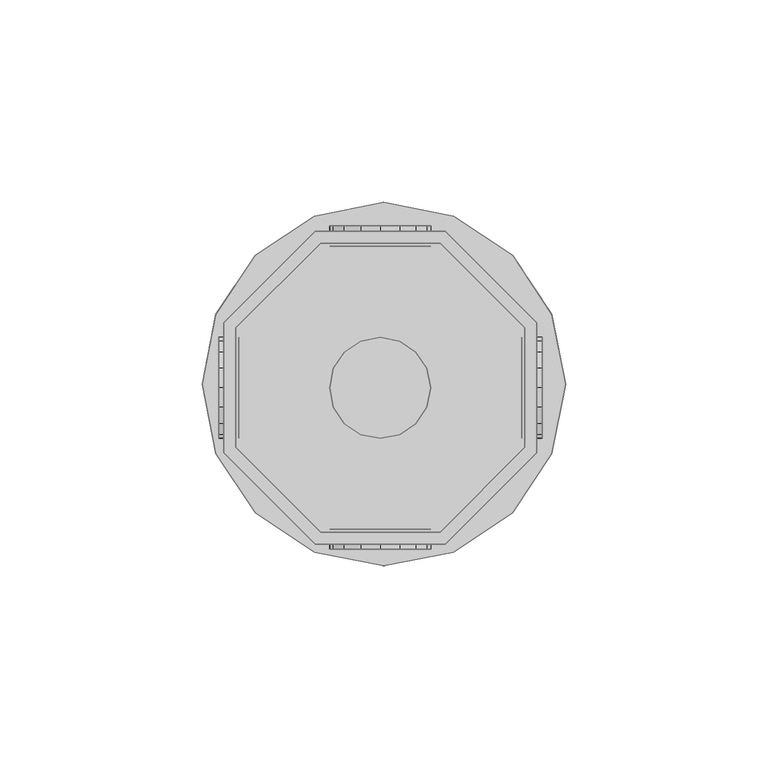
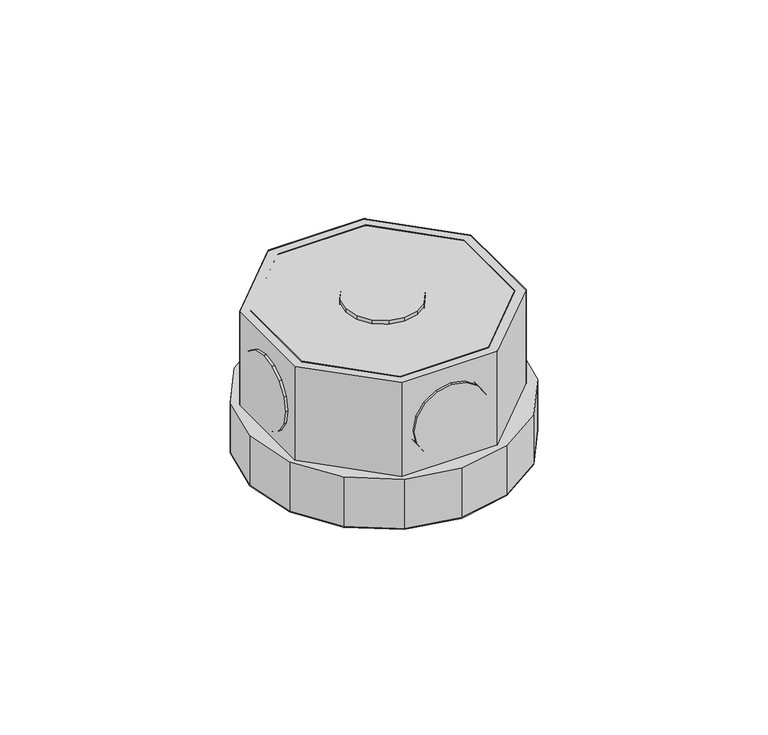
"""IFC4 building model written with IfcOpenShell, lengths in millimetres: light fixture geometry,  213018 :  213018."""

from ifc_helpers import new_model, si_unit, origin, place, context, project, spatial, triangles, source, transform, mapped, element, save


def light_fixture_5b6dd94d(model_context):
    return source(origin(), model_context, "Body", "Tessellation", [
        triangles([(4214.1000435, 12044.5996948, 2924.5999741), (4214.1000435, 12015.0003387, 2975.400071), (4214.1000435, 12015.0003387, 2924.5999741), (4214.1000435, 12044.5996948, 2975.400071), (4288.5998566, 12045.7996216, 2924.5999741), (4288.5998566, 12013.7004181, 2975.400071), (4288.5998566, 12013.7004181, 2924.5999741), (4288.5998566, 12045.7996216, 2975.400071), (4235.0999245, 11994.0004578, 2975.400071), (4235.0999245, 11994.0004578, 2924.5999741), (4265.9000793, 12068.5005615, 2924.5999741), (4265.9000793, 12068.5005615, 2975.400071), (4264.6998619, 11994.0004578, 2975.400071), (4264.6998619, 11994.0004578, 2924.5999741), (4233.8000038, 12068.5005615, 2924.5999741), (4233.8000038, 12068.5005615, 2975.400071), (4285.6000397, 12015.0003387, 2975.400071), (4285.6000397, 12015.0003387, 2924.5999741), (4211.0999359, 12045.7996216, 2924.5999741), (4211.0999359, 12045.7996216, 2975.400071), (4285.6000397, 12044.5996948, 2924.5999741), (4285.6000397, 12044.5996948, 2975.400071), (4211.0999359, 12013.7004181, 2975.400071), (4211.0999359, 12013.7004181, 2924.5999741), (4264.6998619, 12065.4995819, 2924.5999741), (4264.6998619, 12065.4995819, 2975.400071), (4233.8000038, 11990.9994781, 2975.400071), (4233.8000038, 11990.9994781, 2924.5999741), (4265.9000793, 11990.9994781, 2975.400071), (4235.0999245, 12065.4995819, 2975.400071), (4235.0999245, 12065.4995819, 2924.5999741), (4265.9000793, 11990.9994781, 2924.5999741), (4264.6998619, 11994.0004578, 2972.3999634), (4285.6000397, 12015.0003387, 2972.3999634), (4285.6000397, 12044.5996948, 2972.3999634), (4264.6998619, 12065.4995819, 2972.3999634), (4235.0999245, 12065.4995819, 2972.3999634), (4214.1000435, 12044.5996948, 2972.3999634), (4214.1000435, 12015.0003387, 2972.3999634), (4235.0999245, 11994.0004578, 2972.3999634), (4233.8000038, 11990.9994781, 2942.4000504), (4211.0999359, 12013.7004181, 2942.4000504), (4211.0999359, 12045.7996216, 2942.4000504), (4233.8000038, 12068.5005615, 2942.4000504), (4265.9000793, 12068.5005615, 2942.4000504), (4288.5998566, 12045.7996216, 2942.4000504), (4288.5998566, 12013.7004181, 2942.4000504), (4265.9000793, 11990.9994781, 2942.4000504), (4292.2999214, 12013.4004364, 2942.4000504), (4267.9999512, 11989.0995941, 2942.4000504), (4282.5999321, 11998.8001648, 2942.4000504), (4250.8001289, 11985.6998016, 2942.4000504), (4233.5000221, 11989.0995941, 2942.4000504), (4218.9000412, 11998.8001648, 2942.4000504), (4209.2000519, 12013.4004364, 2942.4000504), (4205.7999687, 12030.7005432, 2942.4000504), (4209.2000519, 12047.8994934, 2942.4000504), (4233.5000221, 12072.2003357, 2942.4000504), (4218.9000412, 12062.499765, 2942.4000504), (4295.7999985, 12030.7005432, 2942.4000504), (4292.2999214, 12047.8994934, 2942.4000504), (4282.5999321, 12062.499765, 2942.4000504), (4267.9999512, 12072.2003357, 2942.4000504), (4250.8001289, 12075.7001221, 2942.4000504), (4267.9999512, 11989.0995941, 2924.5999741), (4292.2999214, 12013.4004364, 2924.5999741), (4282.5999321, 11998.8001648, 2924.5999741), (4250.8001289, 11985.6998016, 2924.5999741), (4233.5000221, 11989.0995941, 2924.5999741), (4218.9000412, 11998.8001648, 2924.5999741), (4209.2000519, 12013.4004364, 2924.5999741), (4205.7999687, 12030.7005432, 2924.5999741), (4209.2000519, 12047.8994934, 2924.5999741), (4233.5000221, 12072.2003357, 2924.5999741), (4218.9000412, 12062.499765, 2924.5999741), (4295.7999985, 12030.7005432, 2924.5999741), (4292.2999214, 12047.8994934, 2924.5999741), (4282.5999321, 12062.499765, 2924.5999741), (4267.9999512, 12072.2003357, 2924.5999741), (4250.8001289, 12075.7001221, 2924.5999741), (4209.9000092, 12018.2001434, 2952.6000092), (4209.9000092, 12024.9997284, 2945.9001274), (4209.9000092, 12020.8999786, 2948.5999626), (4209.9000092, 12017.3001984, 2957.4000069), (4209.9000092, 12029.7994354, 2944.8998978), (4209.9000092, 12018.2001434, 2962.2000046), (4209.9000092, 12034.6003052, 2945.9001274), (4209.9000092, 12020.8999786, 2966.2000511), (4209.9000092, 12038.600061, 2948.5999626), (4209.9000092, 12024.9997284, 2968.8998863), (4209.9000092, 12041.2998962, 2952.6000092), (4209.9000092, 12029.7994354, 2969.900116), (4209.9000092, 12042.2998352, 2957.4000069), (4209.9000092, 12034.6003052, 2968.8998863), (4209.9000092, 12041.2998962, 2962.2000046), (4209.9000092, 12038.600061, 2966.2000511), (4214.8999947, 12024.9997284, 2945.9001274), (4214.8999947, 12018.2001434, 2952.6000092), (4214.8999947, 12020.8999786, 2948.5999626), (4214.8999947, 12029.7994354, 2944.8998978), (4214.8999947, 12017.3001984, 2957.4000069), (4214.8999947, 12034.6003052, 2945.9001274), (4214.8999947, 12018.2001434, 2962.2000046), (4214.8999947, 12038.600061, 2948.5999626), (4214.8999947, 12020.8999786, 2966.2000511), (4214.8999947, 12024.9997284, 2968.8998863), (4214.8999947, 12041.2998962, 2952.6000092), (4214.8999947, 12029.7994354, 2969.900116), (4214.8999947, 12042.2998352, 2957.4000069), (4214.8999947, 12034.6003052, 2968.8998863), (4214.8999947, 12041.2998962, 2962.2000046), (4214.8999947, 12038.600061, 2966.2000511), (4284.9000824, 12018.2001434, 2952.6000092), (4284.9000824, 12024.9997284, 2945.9001274), (4284.9000824, 12020.8999786, 2948.5999626), (4284.9000824, 12017.3001984, 2957.4000069), (4284.9000824, 12029.7994354, 2944.8998978), (4284.9000824, 12018.2001434, 2962.2000046), (4284.9000824, 12034.6003052, 2945.9001274), (4284.9000824, 12020.8999786, 2966.2000511), (4284.9000824, 12038.600061, 2948.5999626), (4284.9000824, 12024.9997284, 2968.8998863), (4284.9000824, 12041.2998962, 2952.6000092), (4284.9000824, 12029.7994354, 2969.900116), (4284.9000824, 12042.2998352, 2957.4000069), (4284.9000824, 12034.6003052, 2968.8998863), (4284.9000824, 12041.2998962, 2962.2000046), (4284.9000824, 12038.600061, 2966.2000511), (4289.9000679, 12024.9997284, 2945.9001274), (4289.9000679, 12018.2001434, 2952.6000092), (4289.9000679, 12020.8999786, 2948.5999626), (4289.9000679, 12029.7994354, 2944.8998978), (4289.9000679, 12017.3001984, 2957.4000069), (4289.9000679, 12034.6003052, 2945.9001274), (4289.9000679, 12018.2001434, 2962.2000046), (4289.9000679, 12038.600061, 2948.5999626), (4289.9000679, 12020.8999786, 2966.2000511), (4289.9000679, 12024.9997284, 2968.8998863), (4289.9000679, 12041.2998962, 2952.6000092), (4289.9000679, 12029.7994354, 2969.900116), (4289.9000679, 12042.2998352, 2957.4000069), (4289.9000679, 12034.6003052, 2968.8998863), (4289.9000679, 12041.2998962, 2962.2000046), (4289.9000679, 12038.600061, 2966.2000511), (4254.6998909, 11994.8004089, 2945.9001274), (4261.4000633, 11994.8004089, 2952.6000092), (4258.6999374, 11994.8004089, 2948.5999626), (4249.8998932, 11994.8004089, 2944.8998978), (4262.4000023, 11994.8004089, 2957.4000069), (4245.0998955, 11994.8004089, 2945.9001274), (4261.4000633, 11994.8004089, 2962.2000046), (4240.999855, 11994.8004089, 2948.5999626), (4258.6999374, 11994.8004089, 2966.2000511), (4254.6998909, 11994.8004089, 2968.8998863), (4238.3000198, 11994.8004089, 2952.6000092), (4249.8998932, 11994.8004089, 2969.900116), (4237.4000748, 11994.8004089, 2957.4000069), (4245.0998955, 11994.8004089, 2968.8998863), (4238.3000198, 11994.8004089, 2962.2000046), (4240.999855, 11994.8004089, 2966.2000511), (4261.4000633, 11989.7995514, 2952.6000092), (4254.6998909, 11989.7995514, 2945.9001274), (4258.6999374, 11989.7995514, 2948.5999626), (4262.4000023, 11989.7995514, 2957.4000069), (4249.8998932, 11989.7995514, 2944.8998978), (4261.4000633, 11989.7995514, 2962.2000046), (4245.0998955, 11989.7995514, 2945.9001274), (4258.6999374, 11989.7995514, 2966.2000511), (4240.999855, 11989.7995514, 2948.5999626), (4254.6998909, 11989.7995514, 2968.8998863), (4238.3000198, 11989.7995514, 2952.6000092), (4249.8998932, 11989.7995514, 2969.900116), (4237.4000748, 11989.7995514, 2957.4000069), (4245.0998955, 11989.7995514, 2968.8998863), (4238.3000198, 11989.7995514, 2962.2000046), (4240.999855, 11989.7995514, 2966.2000511), (4254.6998909, 12069.8004822, 2945.9001274), (4261.4000633, 12069.8004822, 2952.6000092), (4258.6999374, 12069.8004822, 2948.5999626), (4249.8998932, 12069.8004822, 2944.8998978), (4262.4000023, 12069.8004822, 2957.4000069), (4245.0998955, 12069.8004822, 2945.9001274), (4261.4000633, 12069.8004822, 2962.2000046), (4240.999855, 12069.8004822, 2948.5999626), (4258.6999374, 12069.8004822, 2966.2000511), (4254.6998909, 12069.8004822, 2968.8998863), (4238.3000198, 12069.8004822, 2952.6000092), (4249.8998932, 12069.8004822, 2969.900116), (4237.4000748, 12069.8004822, 2957.4000069), (4245.0998955, 12069.8004822, 2968.8998863), (4238.3000198, 12069.8004822, 2962.2000046), (4240.999855, 12069.8004822, 2966.2000511), (4261.4000633, 12064.7996246, 2952.6000092), (4254.6998909, 12064.7996246, 2945.9001274), (4258.6999374, 12064.7996246, 2948.5999626), (4262.4000023, 12064.7996246, 2957.4000069), (4249.8998932, 12064.7996246, 2944.8998978), (4261.4000633, 12064.7996246, 2962.2000046), (4245.0998955, 12064.7996246, 2945.9001274), (4258.6999374, 12064.7996246, 2966.2000511), (4240.999855, 12064.7996246, 2948.5999626), (4254.6998909, 12064.7996246, 2968.8998863), (4238.3000198, 12064.7996246, 2952.6000092), (4249.8998932, 12064.7996246, 2969.900116), (4237.4000748, 12064.7996246, 2957.4000069), (4245.0998955, 12064.7996246, 2968.8998863), (4238.3000198, 12064.7996246, 2962.2000046), (4240.999855, 12064.7996246, 2966.2000511), (4261.4000633, 12024.9997284, 2976.9999733), (4254.6998909, 12018.2001434, 2976.9999733), (4258.6999374, 12020.8999786, 2976.9999733), (4249.8998932, 12017.3001984, 2976.9999733), (4262.4000023, 12029.7994354, 2976.9999733), (4245.0998955, 12018.2001434, 2976.9999733), (4261.4000633, 12034.6003052, 2976.9999733), (4240.999855, 12020.8999786, 2976.9999733), (4258.6999374, 12038.600061, 2976.9999733), (4238.3000198, 12024.9997284, 2976.9999733), (4254.6998909, 12041.2998962, 2976.9999733), (4237.4000748, 12029.7994354, 2976.9999733), (4249.8998932, 12042.2998352, 2976.9999733), (4238.3000198, 12034.6003052, 2976.9999733), (4245.0998955, 12041.2998962, 2976.9999733), (4240.999855, 12038.600061, 2976.9999733), (4254.6998909, 12018.2001434, 2971.9999878), (4261.4000633, 12024.9997284, 2971.9999878), (4258.6999374, 12020.8999786, 2971.9999878), (4249.8998932, 12017.3001984, 2971.9999878), (4262.4000023, 12029.7994354, 2971.9999878), (4245.0998955, 12018.2001434, 2971.9999878), (4261.4000633, 12034.6003052, 2971.9999878), (4240.999855, 12020.8999786, 2971.9999878), (4258.6999374, 12038.600061, 2971.9999878), (4238.3000198, 12024.9997284, 2971.9999878), (4254.6998909, 12041.2998962, 2971.9999878), (4237.4000748, 12029.7994354, 2971.9999878), (4249.8998932, 12042.2998352, 2971.9999878), (4238.3000198, 12034.6003052, 2971.9999878), (4245.0998955, 12041.2998962, 2971.9999878), (4240.999855, 12038.600061, 2971.9999878)], [[1, 2, 3], [2, 1, 4], [5, 6, 7], [6, 5, 8], [3, 9, 10], [9, 3, 2], [11, 8, 5], [8, 11, 12], [10, 13, 14], [13, 10, 9], [15, 12, 11], [12, 15, 16], [14, 17, 18], [17, 14, 13], [19, 16, 15], [16, 19, 20], [17, 21, 18], [21, 17, 22], [23, 19, 24], [19, 23, 20], [22, 25, 21], [25, 22, 26], [27, 24, 28], [24, 27, 23], [6, 13, 29], [29, 13, 27], [27, 13, 9], [27, 9, 23], [23, 9, 2], [23, 2, 4], [23, 4, 20], [20, 4, 30], [8, 17, 6], [6, 17, 13], [17, 8, 22], [12, 22, 8], [22, 12, 26], [30, 26, 12], [16, 30, 12], [20, 30, 16], [30, 1, 31], [1, 30, 4], [6, 32, 7], [32, 6, 29], [32, 14, 7], [28, 14, 32], [14, 28, 10], [24, 10, 28], [10, 24, 3], [1, 3, 24], [19, 1, 24], [31, 1, 19], [7, 18, 5], [14, 18, 7], [5, 18, 21], [5, 21, 11], [11, 21, 25], [11, 25, 31], [11, 31, 15], [15, 31, 19], [26, 31, 25], [31, 26, 30], [29, 28, 32], [28, 29, 27], [17, 33, 34], [33, 17, 13], [35, 17, 34], [17, 35, 22], [36, 22, 35], [22, 36, 26], [37, 26, 36], [26, 37, 30], [38, 30, 37], [30, 38, 4], [2, 38, 39], [38, 2, 4], [17, 9, 13], [9, 17, 22], [9, 22, 2], [2, 22, 26], [2, 26, 4], [4, 26, 30], [13, 40, 33], [40, 13, 9], [40, 34, 33], [35, 34, 40], [35, 40, 39], [35, 39, 36], [36, 39, 38], [36, 38, 37], [9, 39, 40], [39, 9, 2], [24, 41, 28], [41, 24, 42], [19, 42, 24], [42, 19, 43], [44, 19, 15], [19, 44, 43], [45, 15, 11], [15, 45, 44], [46, 11, 5], [11, 46, 45], [47, 5, 7], [5, 47, 46], [32, 47, 7], [47, 32, 48], [28, 48, 32], [48, 28, 41], [49, 50, 51], [48, 50, 49], [50, 48, 52], [41, 52, 48], [52, 41, 53], [53, 41, 54], [42, 54, 41], [54, 42, 55], [55, 42, 43], [55, 43, 56], [56, 43, 57], [57, 43, 44], [57, 44, 58], [57, 58, 59], [47, 49, 60], [49, 47, 48], [47, 60, 46], [61, 46, 60], [46, 61, 62], [46, 62, 45], [45, 62, 63], [44, 45, 63], [44, 63, 64], [44, 64, 58], [65, 66, 67], [66, 65, 32], [68, 32, 65], [32, 68, 28], [28, 68, 69], [70, 28, 69], [28, 70, 24], [71, 24, 70], [19, 24, 71], [19, 71, 72], [73, 19, 72], [19, 73, 15], [74, 15, 73], [74, 73, 75], [76, 66, 7], [32, 7, 66], [5, 76, 7], [76, 5, 77], [77, 5, 78], [11, 78, 5], [78, 11, 79], [79, 11, 15], [79, 15, 80], [80, 15, 74], [57, 75, 73], [75, 57, 59], [56, 73, 72], [73, 56, 57], [55, 72, 71], [72, 55, 56], [54, 71, 70], [71, 54, 55], [53, 70, 69], [70, 53, 54], [52, 69, 68], [69, 52, 53], [50, 68, 65], [68, 50, 52], [51, 65, 67], [65, 51, 50], [66, 51, 67], [51, 66, 49], [76, 49, 66], [49, 76, 60], [77, 60, 76], [60, 77, 61], [78, 61, 77], [61, 78, 62], [79, 62, 78], [62, 79, 63], [80, 63, 79], [63, 80, 64], [75, 58, 74], [58, 75, 59], [74, 64, 80], [64, 74, 58], [81, 82, 83], [82, 81, 84], [85, 82, 84], [85, 84, 86], [87, 85, 86], [87, 86, 88], [87, 88, 89], [89, 88, 90], [89, 90, 91], [91, 90, 92], [91, 92, 93], [93, 92, 94], [93, 94, 95], [95, 94, 96], [97, 98, 99], [98, 97, 100], [101, 98, 100], [101, 100, 102], [103, 101, 102], [103, 102, 104], [103, 104, 105], [105, 104, 106], [106, 104, 107], [106, 107, 108], [108, 107, 109], [108, 109, 110], [110, 109, 111], [110, 111, 112], [87, 104, 102], [104, 87, 89], [85, 102, 100], [102, 85, 87], [82, 100, 97], [100, 82, 85], [83, 97, 99], [97, 83, 82], [98, 83, 99], [83, 98, 81], [101, 81, 98], [81, 101, 84], [103, 84, 101], [84, 103, 86], [105, 86, 103], [86, 105, 88], [106, 88, 105], [88, 106, 90], [108, 90, 106], [90, 108, 92], [110, 92, 108], [92, 110, 94], [112, 94, 110], [94, 112, 96], [95, 112, 111], [112, 95, 96], [93, 111, 109], [111, 93, 95], [89, 107, 104], [107, 89, 91], [91, 109, 107], [109, 91, 93], [113, 114, 115], [114, 113, 116], [117, 114, 116], [117, 116, 118], [119, 117, 118], [119, 118, 120], [119, 120, 121], [121, 120, 122], [121, 122, 123], [123, 122, 124], [123, 124, 125], [125, 124, 126], [125, 126, 127], [127, 126, 128], [129, 130, 131], [130, 129, 132], [133, 130, 132], [133, 132, 134], [135, 133, 134], [135, 134, 136], [135, 136, 137], [137, 136, 138], [138, 136, 139], [138, 139, 140], [140, 139, 141], [140, 141, 142], [142, 141, 143], [142, 143, 144], [119, 136, 134], [136, 119, 121], [117, 134, 132], [134, 117, 119], [114, 132, 129], [132, 114, 117], [115, 129, 131], [129, 115, 114], [130, 115, 131], [115, 130, 113], [133, 113, 130], [113, 133, 116], [135, 116, 133], [116, 135, 118], [137, 118, 135], [118, 137, 120], [138, 120, 137], [120, 138, 122], [140, 122, 138], [122, 140, 124], [142, 124, 140], [124, 142, 126], [144, 126, 142], [126, 144, 128], [127, 144, 143], [144, 127, 128], [125, 143, 141], [143, 125, 127], [121, 139, 136], [139, 121, 123], [123, 141, 139], [141, 123, 125], [145, 146, 147], [146, 145, 148], [149, 146, 148], [149, 148, 150], [151, 149, 150], [151, 150, 152], [151, 152, 153], [153, 152, 154], [154, 152, 155], [154, 155, 156], [156, 155, 157], [156, 157, 158], [158, 157, 159], [158, 159, 160], [161, 162, 163], [162, 161, 164], [165, 162, 164], [165, 164, 166], [167, 165, 166], [167, 166, 168], [169, 167, 168], [169, 168, 170], [169, 170, 171], [171, 170, 172], [171, 172, 173], [173, 172, 174], [173, 174, 175], [175, 174, 176], [158, 176, 174], [176, 158, 160], [156, 174, 172], [174, 156, 158], [154, 172, 170], [172, 154, 156], [153, 170, 168], [170, 153, 154], [151, 168, 166], [168, 151, 153], [149, 166, 164], [166, 149, 151], [146, 164, 161], [164, 146, 149], [147, 161, 163], [161, 147, 146], [162, 147, 163], [147, 162, 145], [165, 145, 162], [145, 165, 148], [167, 148, 165], [148, 167, 150], [169, 150, 167], [150, 169, 152], [171, 152, 169], [152, 171, 155], [173, 155, 171], [155, 173, 157], [176, 159, 175], [159, 176, 160], [175, 157, 173], [157, 175, 159], [177, 178, 179], [178, 177, 180], [181, 178, 180], [181, 180, 182], [183, 181, 182], [183, 182, 184], [183, 184, 185], [185, 184, 186], [186, 184, 187], [186, 187, 188], [188, 187, 189], [188, 189, 190], [190, 189, 191], [190, 191, 192], [193, 194, 195], [194, 193, 196], [197, 194, 196], [197, 196, 198], [199, 197, 198], [199, 198, 200], [201, 199, 200], [201, 200, 202], [201, 202, 203], [203, 202, 204], [203, 204, 205], [205, 204, 206], [205, 206, 207], [207, 206, 208], [190, 208, 206], [208, 190, 192], [188, 206, 204], [206, 188, 190], [186, 204, 202], [204, 186, 188], [185, 202, 200], [202, 185, 186], [183, 200, 198], [200, 183, 185], [181, 198, 196], [198, 181, 183], [178, 196, 193], [196, 178, 181], [179, 193, 195], [193, 179, 178], [194, 179, 195], [179, 194, 177], [197, 177, 194], [177, 197, 180], [199, 180, 197], [180, 199, 182], [201, 182, 199], [182, 201, 184], [203, 184, 201], [184, 203, 187], [205, 187, 203], [187, 205, 189], [208, 191, 207], [191, 208, 192], [207, 189, 205], [189, 207, 191], [209, 210, 211], [212, 210, 209], [212, 209, 213], [214, 212, 213], [214, 213, 215], [216, 214, 215], [216, 215, 217], [216, 217, 218], [218, 217, 219], [218, 219, 220], [220, 219, 221], [220, 221, 222], [222, 221, 223], [222, 223, 224], [225, 226, 227], [226, 225, 228], [229, 226, 228], [229, 228, 230], [231, 229, 230], [231, 230, 232], [231, 232, 233], [233, 232, 234], [233, 234, 235], [235, 234, 236], [235, 236, 237], [237, 236, 238], [237, 238, 239], [239, 238, 240], [222, 240, 238], [240, 222, 224], [220, 238, 236], [238, 220, 222], [218, 236, 234], [236, 218, 220], [216, 234, 232], [234, 216, 218], [214, 232, 230], [232, 214, 216], [212, 230, 228], [230, 212, 214], [210, 228, 225], [228, 210, 212], [211, 225, 227], [225, 211, 210], [226, 211, 227], [211, 226, 209], [229, 209, 226], [209, 229, 213], [231, 213, 229], [213, 231, 215], [233, 215, 231], [215, 233, 217], [235, 217, 233], [217, 235, 219], [237, 219, 235], [219, 237, 221], [240, 223, 239], [223, 240, 224], [239, 221, 237], [221, 239, 223]], closed=False),
    ])


if __name__ == "__main__":
    model = new_model("IFC4")
    model_context = context("Model", 3, world=origin())
    ifc_project = project(units=[si_unit("LENGTHUNIT", "METRE", prefix="MILLI")], contexts=[model_context])
    site = spatial("IfcSite", under=ifc_project)
    building = spatial("IfcBuilding", under=site)
    placement = place(None, origin())
    light_fixture_shape = light_fixture_5b6dd94d(model_context)
    element("IfcLightFixture", 1, ObjectType=" 213018 :  213018", at=placement, inside=building, context=model_context, shape_type="MappedRepresentation", body=[
        mapped(light_fixture_shape, transform((0.0, 0.0, 0.0), x_axis=(1.0, 0.0, 0.0), y_axis=(0.0, 1.0, 0.0), z_axis=(0.0, 0.0, 1.0))),
    ])
    save(model, "model.ifc")
